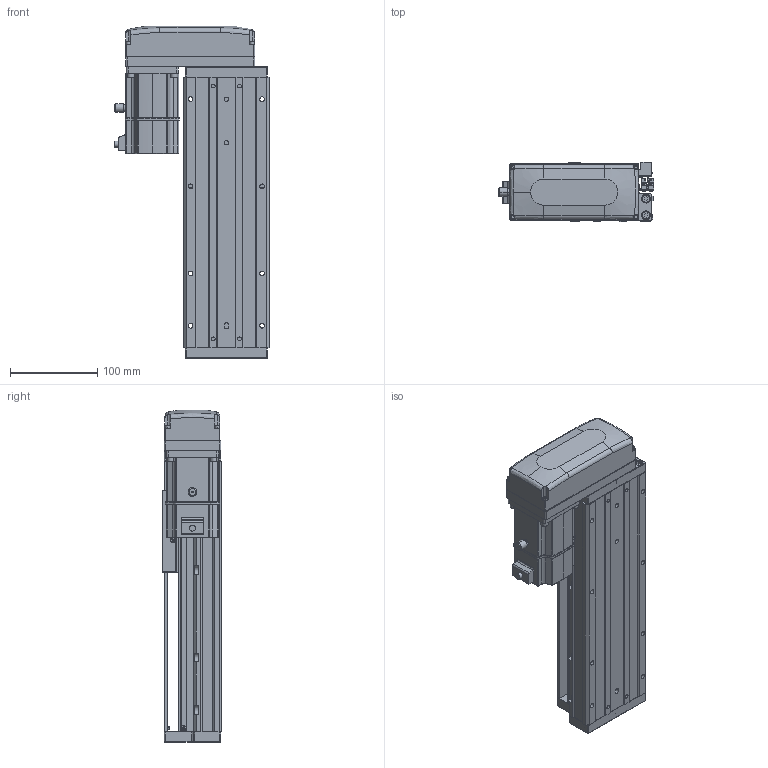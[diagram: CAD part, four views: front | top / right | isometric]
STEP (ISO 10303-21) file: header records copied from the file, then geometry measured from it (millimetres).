
FILE_DESCRIPTION (( 'STEP AP203' ), '1' );
FILE_NAME ('KTHA100-150-BR-M20-C4L.step', '2022-04-26T01:58:48', ( '微软用户' ), ( '微软中国' ), 'SwSTEP 2.0', 'SolidWorks 2020', '' );
FILE_SCHEMA (( 'CONFIG_CONTROL_DESIGN' ));
Length unit declared in the file: millimetre
Products named in the file (17): KTHA100-002; GBT77-2000 M3×3; CTHA86-033; KTHA100-004; GBT 70.1-M3℅6; KTHA100-150-BR-M20-C4L; KTHA100-005; GBT70.1 M5℅16; GB¨uT 70.2-M3¡Á5_M3¡Á6; CTHA60-016; EE_SX911P_R; GBT 70.3-M3℅6; CTHA60-017; _X2_4E0983F1_X0_200W_1; KTHA100-001_310; CTHA60-021; CTHA86-015-1_CTHA86-015-2
Assembly tree (57 placements, depth 2):
  KTHA100-150-BR-M20-C4L
    KTHA100-001_310
    KTHA100-002
    KTHA100-004
    KTHA100-005
    GB¨uT 70.2-M3¡Á5_M3¡Á6  x6
    EE_SX911P_R  x3
    CTHA60-017  x3
    CTHA60-021  x2
    GBT77-2000 M3×3  x6
    GBT 70.1-M3℅6  x10
    GBT70.1 M5℅16  x14
    CTHA60-016  x2
    GBT 70.3-M3℅6  x4
    _X2_4E0983F1_X0_200W_1
    CTHA86-015-1_CTHA86-015-2
    CTHA86-033
Bounding box: 178.52 x 68 x 381 mm (x, y, z)
Volume: 2090130.1 mm3; surface area: 352155.1 mm2
Topology: 60 solids, 60 shells, 2357 faces, 5609 edges, 3472 vertices
Faces by surface type: plane 1196, cylinder 653, cone 301, torus 116, bspline 75, sphere 16
Entity records: 39364 total; most frequent: CARTESIAN_POINT 8000, DIRECTION 6052, ORIENTED_EDGE 5830, EDGE_CURVE 2915, AXIS2_PLACEMENT_3D 2132, VERTEX_POINT 1832, VECTOR 1788, LINE 1788
